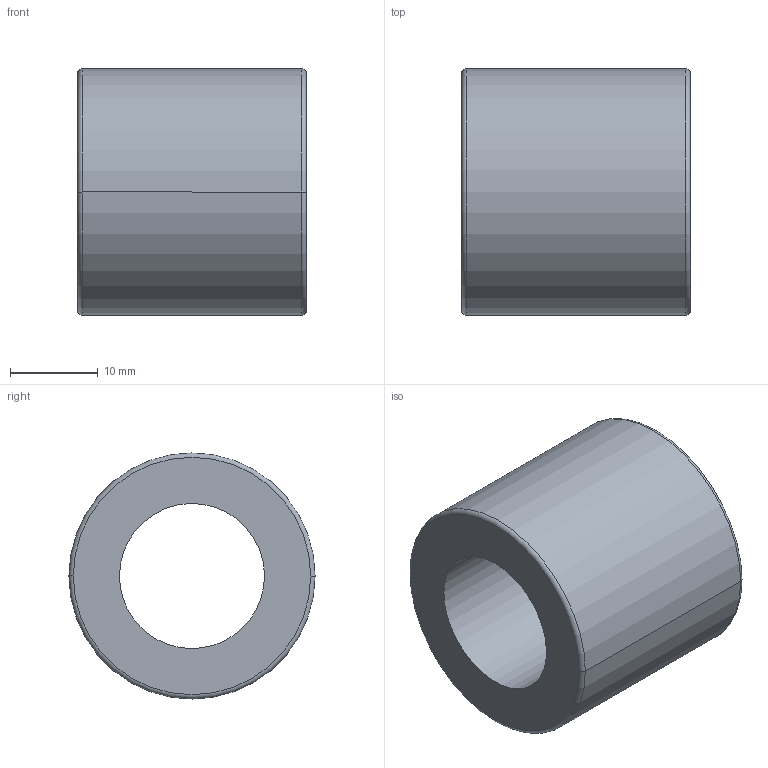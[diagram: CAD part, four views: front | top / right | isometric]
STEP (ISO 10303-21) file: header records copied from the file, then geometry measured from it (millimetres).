
FILE_DESCRIPTION(('CATIA V5 STEP Exchange'),'2;1');
FILE_NAME('C:\Users\aa\Documents\이댈\TM\STM\STM16.stp','2020-03-24T09:40:40+00:00',('none'),('none'),'CATIA Version 5 Release 20 SP 7 (IN-10)','CATIA V5 STEP AP203','none');
FILE_SCHEMA(('CONFIG_CONTROL_DESIGN'));
Length unit declared in the file: millimetre
Products named in the file (1): STM16
Bounding box: 26 x 28 x 28 mm (x, y, z)
Volume: 10440.8 mm3; surface area: 4400.7 mm2
Topology: 1 solids, 1 shells, 10 faces, 20 edges, 12 vertices
Faces by surface type: cylinder 4, torus 4, plane 2
Entity records: 322 total; most frequent: CARTESIAN_POINT 71, ORIENTED_EDGE 40, DIRECTION 38, AXIS2_PLACEMENT_3D 25, EDGE_CURVE 20, CIRCLE 14, EDGE_LOOP 12, VERTEX_POINT 12
